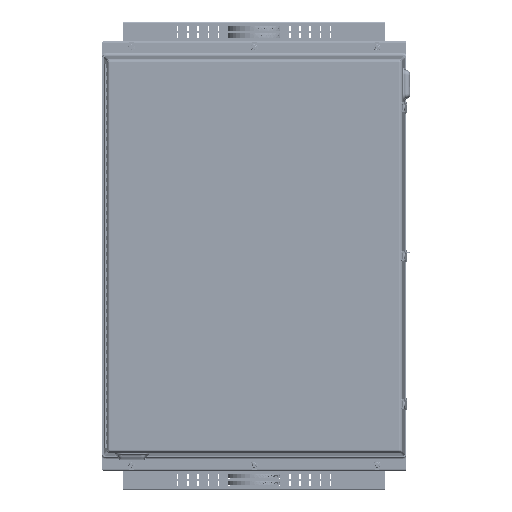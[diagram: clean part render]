
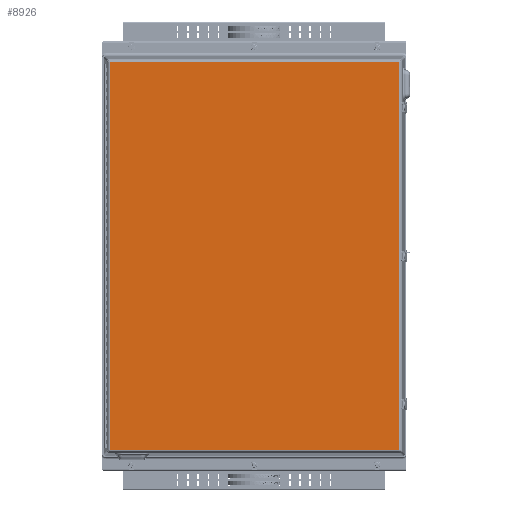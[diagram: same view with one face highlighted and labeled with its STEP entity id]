
A CAD part, front view. The second image highlights one B-rep face of the part: STEP entity #8926.
In plain terms, the highlighted planar face has unit normal (0, -1, 0).
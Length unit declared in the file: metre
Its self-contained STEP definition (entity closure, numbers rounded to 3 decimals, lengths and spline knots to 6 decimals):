
#8926 = ADVANCED_FACE( '', ( #18673 ), #18674, .F. );
#18673 = FACE_OUTER_BOUND( '', #36780, .T. );
#18674 = PLANE( '', #36781 );
#36780 = EDGE_LOOP( '', ( #69561, #69562, #69563, #69564 ) );
#36781 = AXIS2_PLACEMENT_3D( '', #69565, #69566, #69567 );
#69561 = ORIENTED_EDGE( '', *, *, #102834, .T. );
#69562 = ORIENTED_EDGE( '', *, *, #103111, .T. );
#69563 = ORIENTED_EDGE( '', *, *, #100750, .T. );
#69564 = ORIENTED_EDGE( '', *, *, #103112, .T. );
#69565 = CARTESIAN_POINT( '', ( -0.456184, -0.0381, -0.608584 ) );
#69566 = DIRECTION( '', ( 0., 1., 0. ) );
#69567 = DIRECTION( '', ( 0., 0., 1. ) );
#100750 = EDGE_CURVE( '', #117246, #117244, #117247, .T. );
#102834 = EDGE_CURVE( '', #115788, #120592, #120594, .T. );
#103111 = EDGE_CURVE( '', #120592, #117246, #121038, .T. );
#103112 = EDGE_CURVE( '', #117244, #115788, #121039, .T. );
#115788 = VERTEX_POINT( '', #142508 );
#117244 = VERTEX_POINT( '', #146236 );
#117246 = VERTEX_POINT( '', #146238 );
#117247 = LINE( '', #146239, #146240 );
#120592 = VERTEX_POINT( '', #154009 );
#120594 = LINE( '', #154011, #154012 );
#121038 = LINE( '', #154966, #154967 );
#121039 = LINE( '', #154968, #154969 );
#142508 = CARTESIAN_POINT( '', ( -0.449, -0.0381, 0.6014 ) );
#146236 = CARTESIAN_POINT( '', ( 0.449, -0.0381, 0.6014 ) );
#146238 = CARTESIAN_POINT( '', ( 0.449, -0.0381, -0.6014 ) );
#146239 = CARTESIAN_POINT( '', ( 0.449, -0.0381, 0.607586 ) );
#146240 = VECTOR( '', #182466, 1. );
#154009 = CARTESIAN_POINT( '', ( -0.449, -0.0381, -0.6014 ) );
#154011 = CARTESIAN_POINT( '', ( -0.449, -0.0381, -0.607586 ) );
#154012 = VECTOR( '', #184763, 1. );
#154966 = CARTESIAN_POINT( '', ( 0.455186, -0.0381, -0.6014 ) );
#154967 = VECTOR( '', #185054, 1. );
#154968 = CARTESIAN_POINT( '', ( -0.455186, -0.0381, 0.6014 ) );
#154969 = VECTOR( '', #185055, 1. );
#182466 = DIRECTION( '', ( 0., 0., 1. ) );
#184763 = DIRECTION( '', ( 0., 0., -1. ) );
#185054 = DIRECTION( '', ( 1., 0., 0. ) );
#185055 = DIRECTION( '', ( -1., 0., 0. ) );
